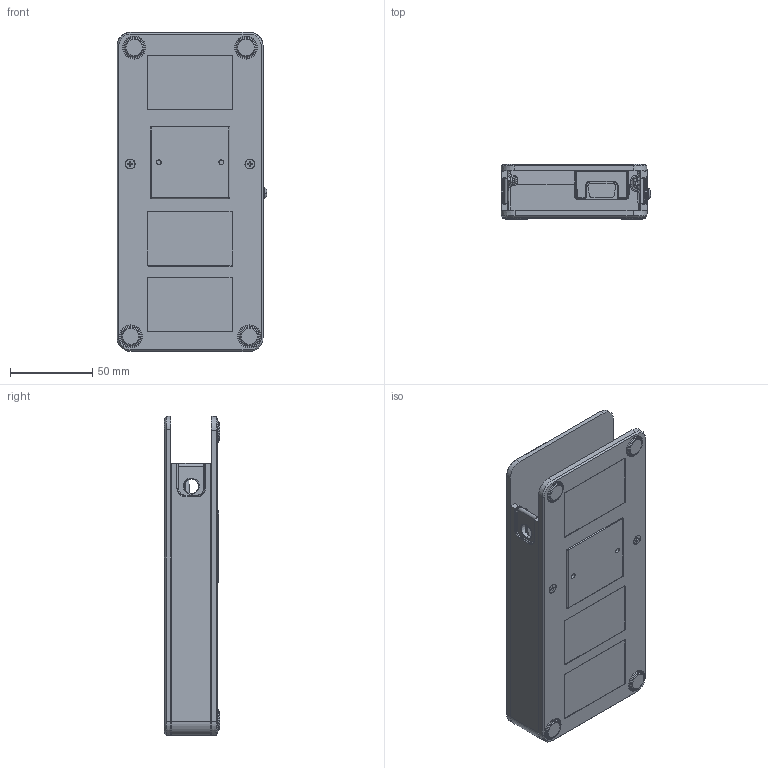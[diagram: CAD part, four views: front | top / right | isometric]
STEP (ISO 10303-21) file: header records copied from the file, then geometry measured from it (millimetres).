
FILE_DESCRIPTION((''),'2;1');
FILE_NAME('CU_CDAQ-9181','2010-12-02T',('dkendric'),(''),'PRO/ENGINEER BY PARAMETRIC TECHNOLOGY CORPORATION, 2006510','PRO/ENGINEER BY PARAMETRIC TECHNOLOGY CORPORATION, 2006510','');
FILE_SCHEMA(('CONFIG_CONTROL_DESIGN'));
Products named in the file (1): CU_CDAQ-9181
Bounding box: 91.06 x 33.74 x 194 mm (x, y, z)
Volume: 145432.1 mm3; surface area: 111711.7 mm2
Topology: 9 solids, 9 shells, 2448 faces, 6202 edges, 3838 vertices
Faces by surface type: plane 1361, cylinder 568, bspline 176, cone 117, torus 116, extrusion 91, sphere 19
Entity records: 86642 total; most frequent: CARTESIAN_POINT 29455, ORIENTED_EDGE 12280, DIRECTION 10879, EDGE_CURVE 6140, VECTOR 4265, LINE 4174, VERTEX_POINT 3895, AXIS2_PLACEMENT_3D 3307
